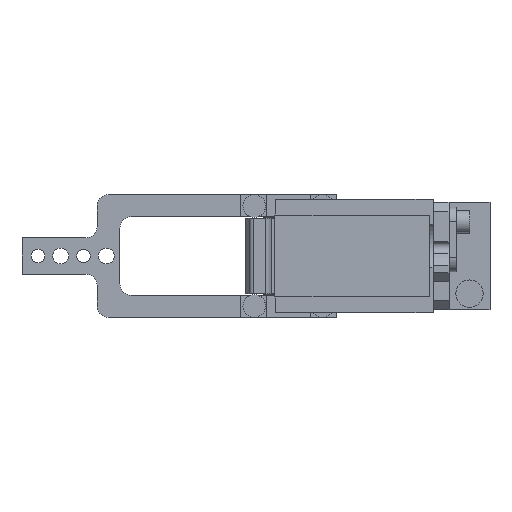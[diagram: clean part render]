
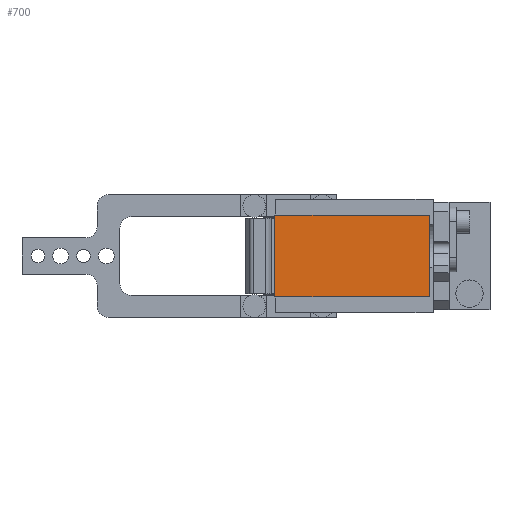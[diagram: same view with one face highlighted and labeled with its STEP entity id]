
A CAD part, front view. The second image highlights one B-rep face of the part: STEP entity #700.
In plain terms, the highlighted planar face has unit normal (0, -1, 0).
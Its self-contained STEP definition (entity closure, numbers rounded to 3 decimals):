
#15 = LINE ( 'NONE', #8639, #6114 ) ;
#83 = DIRECTION ( 'NONE',  ( 0., -1., 0. ) ) ;
#192 = ORIENTED_EDGE ( 'NONE', *, *, #2346, .T. ) ;
#255 = CARTESIAN_POINT ( 'NONE',  ( 62., -233., 18. ) ) ;
#700 = ADVANCED_FACE ( 'NONE', ( #3275 ), #12637, .T. ) ;
#755 = DIRECTION ( 'NONE',  ( -1., 0., 0. ) ) ;
#1210 = VECTOR ( 'NONE', #9847, 1000. ) ;
#1912 = ORIENTED_EDGE ( 'NONE', *, *, #8390, .T. ) ;
#1967 = VERTEX_POINT ( 'NONE', #7754 ) ;
#2133 = CARTESIAN_POINT ( 'NONE',  ( 0., -233., 0. ) ) ;
#2346 = EDGE_CURVE ( 'NONE', #11589, #1967, #7590, .T. ) ;
#2375 = AXIS2_PLACEMENT_3D ( 'NONE', #2133, #83, #4386 ) ;
#2930 = VECTOR ( 'NONE', #10236, 1000. ) ;
#3124 = VECTOR ( 'NONE', #755, 1000. ) ;
#3269 = CARTESIAN_POINT ( 'NONE',  ( -6., -233., 18. ) ) ;
#3275 = FACE_OUTER_BOUND ( 'NONE', #12082, .T. ) ;
#3748 = VERTEX_POINT ( 'NONE', #3269 ) ;
#3805 = LINE ( 'NONE', #8044, #3124 ) ;
#4386 = DIRECTION ( 'NONE',  ( 0., 0., -1. ) ) ;
#5247 = EDGE_CURVE ( 'NONE', #5541, #3748, #3805, .T. ) ;
#5540 = CARTESIAN_POINT ( 'NONE',  ( -6., -233., -18. ) ) ;
#5541 = VERTEX_POINT ( 'NONE', #255 ) ;
#6114 = VECTOR ( 'NONE', #12948, 1000. ) ;
#6664 = ORIENTED_EDGE ( 'NONE', *, *, #5247, .T. ) ;
#7590 = LINE ( 'NONE', #5540, #1210 ) ;
#7754 = CARTESIAN_POINT ( 'NONE',  ( 62., -233., -18. ) ) ;
#8044 = CARTESIAN_POINT ( 'NONE',  ( -6., -233., 18. ) ) ;
#8123 = CARTESIAN_POINT ( 'NONE',  ( -6., -233., 18. ) ) ;
#8390 = EDGE_CURVE ( 'NONE', #3748, #11589, #8896, .T. ) ;
#8639 = CARTESIAN_POINT ( 'NONE',  ( 62., -233., 18. ) ) ;
#8896 = LINE ( 'NONE', #8123, #2930 ) ;
#9174 = EDGE_CURVE ( 'NONE', #1967, #5541, #15, .T. ) ;
#9847 = DIRECTION ( 'NONE',  ( 1., 0., 0. ) ) ;
#10236 = DIRECTION ( 'NONE',  ( 0., 0., -1. ) ) ;
#10562 = ORIENTED_EDGE ( 'NONE', *, *, #9174, .T. ) ;
#11589 = VERTEX_POINT ( 'NONE', #12474 ) ;
#12082 = EDGE_LOOP ( 'NONE', ( #1912, #192, #10562, #6664 ) ) ;
#12474 = CARTESIAN_POINT ( 'NONE',  ( -6., -233., -18. ) ) ;
#12637 = PLANE ( 'NONE',  #2375 ) ;
#12948 = DIRECTION ( 'NONE',  ( 0., 0., 1. ) ) ;
